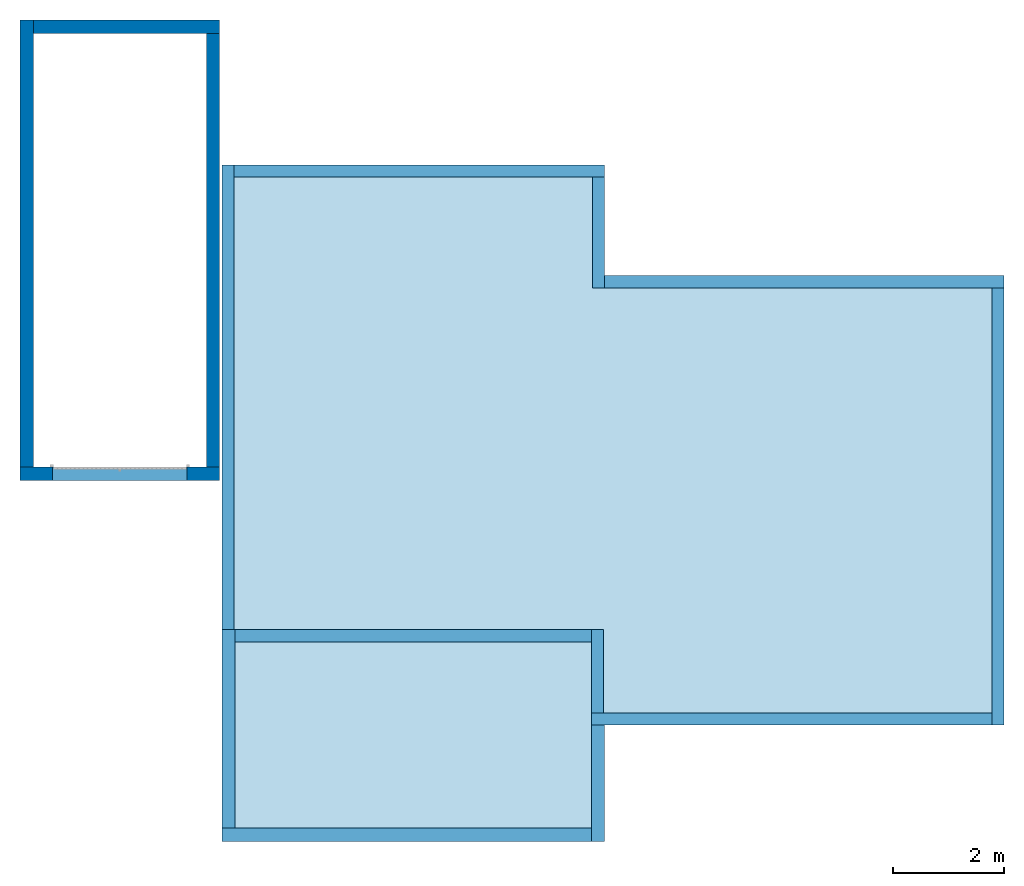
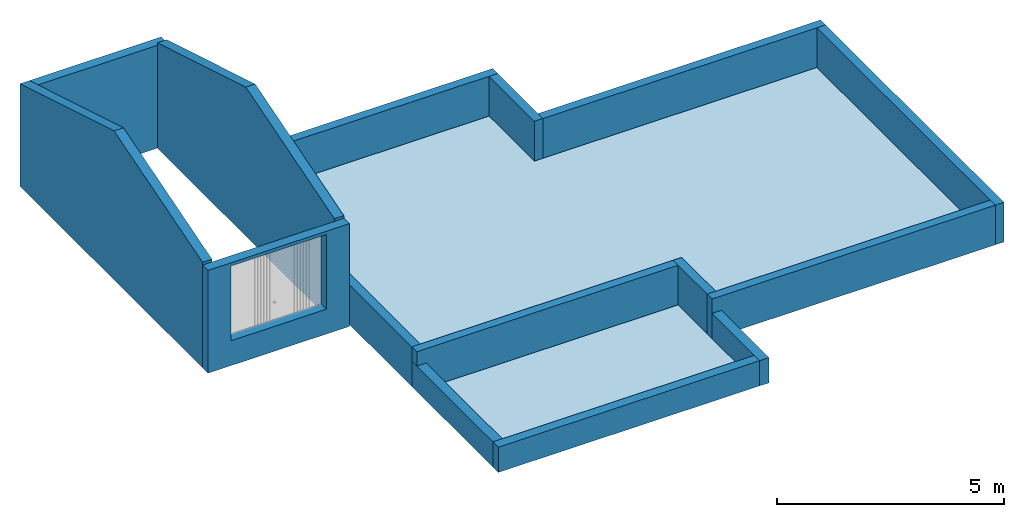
# One storey, incomplete: 15 walls, 1 slab, 1 opening.
"""IFC2X3 building model written with IfcOpenShell, lengths in metres."""

from ifc_helpers import new_model, entity, si_unit, converted_unit, derived_unit, direction, frame, frame_2d, origin, origin_2d_with_axis, place, context, subcontext, project, spatial, polyline, rectangle, outline, extrude, clip, bounded_halfspace, material, layer, layer_set, layer_usage, type_object, element, save


model = new_model("IFC2X3")

# Units and contexts
model_context = context("Model", 3, precision=1e-05, world=origin(), true_north=direction((6.12303176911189e-17, 1.0)))
body_context = subcontext(model_context, "Body", "Model", "MODEL_VIEW")
ifc_project = project(units=[si_unit("LENGTHUNIT", "METRE"), si_unit("AREAUNIT", "SQUARE_METRE"), si_unit("VOLUMEUNIT", "CUBIC_METRE"), converted_unit("PLANEANGLEUNIT", "DEGREE", entity("IfcRatioMeasure", 0.0174532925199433), si_unit("PLANEANGLEUNIT", "RADIAN"), dimensions=[0, 0, 0, 0, 0, 0, 0]), si_unit("MASSUNIT", "GRAM", prefix="KILO"), derived_unit("MASSDENSITYUNIT", [(si_unit("MASSUNIT", "GRAM", prefix="KILO"), 1), (si_unit("LENGTHUNIT", "METRE"), -3)]), derived_unit("MOMENTOFINERTIAUNIT", [(si_unit("LENGTHUNIT", "METRE"), 4)]), si_unit("TIMEUNIT", "SECOND"), si_unit("FREQUENCYUNIT", "HERTZ"), si_unit("THERMODYNAMICTEMPERATUREUNIT", "DEGREE_CELSIUS"), derived_unit("THERMALTRANSMITTANCEUNIT", [(si_unit("MASSUNIT", "GRAM", prefix="KILO"), 1), (si_unit("THERMODYNAMICTEMPERATUREUNIT", "KELVIN"), -1), (si_unit("TIMEUNIT", "SECOND"), -3)]), derived_unit("VOLUMETRICFLOWRATEUNIT", [(si_unit("LENGTHUNIT", "METRE"), 3), (si_unit("TIMEUNIT", "SECOND"), -1)]), si_unit("ELECTRICCURRENTUNIT", "AMPERE"), si_unit("ELECTRICVOLTAGEUNIT", "VOLT"), si_unit("POWERUNIT", "WATT"), si_unit("FORCEUNIT", "NEWTON", prefix="KILO"), si_unit("ILLUMINANCEUNIT", "LUX"), si_unit("LUMINOUSFLUXUNIT", "LUMEN"), si_unit("LUMINOUSINTENSITYUNIT", "CANDELA"), derived_unit("USERDEFINED", [(si_unit("MASSUNIT", "GRAM", prefix="KILO"), -1), (si_unit("LENGTHUNIT", "METRE"), -2), (si_unit("TIMEUNIT", "SECOND"), 3), (si_unit("LUMINOUSFLUXUNIT", "LUMEN"), 1)]), derived_unit("LINEARVELOCITYUNIT", [(si_unit("LENGTHUNIT", "METRE"), 1), (si_unit("TIMEUNIT", "SECOND"), -1)]), si_unit("PRESSUREUNIT", "PASCAL"), derived_unit("USERDEFINED", [(si_unit("LENGTHUNIT", "METRE"), -2), (si_unit("MASSUNIT", "GRAM", prefix="KILO"), 1), (si_unit("TIMEUNIT", "SECOND"), -2)]), derived_unit("LINEARFORCEUNIT", [(si_unit("MASSUNIT", "GRAM", prefix="KILO"), 1), (si_unit("LENGTHUNIT", "METRE"), 1), (si_unit("TIMEUNIT", "SECOND"), -2), (si_unit("LENGTHUNIT", "METRE"), -1)]), derived_unit("PLANARFORCEUNIT", [(si_unit("MASSUNIT", "GRAM", prefix="KILO"), 1), (si_unit("LENGTHUNIT", "METRE"), 1), (si_unit("TIMEUNIT", "SECOND"), -2), (si_unit("LENGTHUNIT", "METRE"), -2)])], contexts=[model_context])

# Site, building, storey
site_placement = place(None, origin())
site = spatial("IfcSite", under=ifc_project, at=site_placement, Name="Surface", CompositionType="ELEMENT")
building_placement = place(site_placement, origin())
building = spatial("IfcBuilding", under=site, at=building_placement, CompositionType="ELEMENT")
storey_placement = place(building_placement, frame((0.0, 0.0, -1.07)))
storey = spatial("IfcBuildingStorey", under=building, at=storey_placement, Name="TN", CompositionType="ELEMENT", Elevation=-1.07)

# Slab
ifc_material_1 = material(Name="Herbe")
ifc_layer_1 = layer(ifc_material_1, 0.01)
ifc_layer_set_1 = layer_set([ifc_layer_1], Name="Terre-plein:Terre-plein vs")
ifc_layer_usage_1 = layer_usage(ifc_layer_set_1, "AXIS3", "POSITIVE", 0.0)
slab_type = type_object("IfcSlabType", Name="Terre-plein:Terre-plein vs", PredefinedType="FLOOR", material=ifc_layer_set_1)
slab_placement = place(storey_placement, origin())
element("IfcSlab", 1, at=slab_placement, inside=storey, type_object=slab_type, material=ifc_layer_usage_1, Name="Terre-plein:Terre-plein vs", ObjectType="Terre-plein:Terre-plein vs", PredefinedType="FLOOR", context=body_context, shape_type="SweptSolid", body=[
    extrude(outline(polyline([(-1.14399999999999, -6.33399999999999), (5.31600000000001, -6.33399999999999), (5.31599999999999, 1.93599999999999), (5.29599999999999, 1.93599999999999), (5.29599999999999, 5.40599999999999), (-1.12400000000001, 5.40599999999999), (-1.124, 3.32599999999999), (-8.34400000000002, 3.32599999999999), (-8.34399999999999, -4.33399999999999), (-1.14399999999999, -4.33399999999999), (-1.14399999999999, -6.33399999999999)])), frame((-12.4722926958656, 2.43337977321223, -0.0100000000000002), z_axis=(0.0, 0.0, 1.0), x_axis=(-1.0, 0.0, 0.0)), (0.0, 0.0, 1.0), 0.01),
])

# Walls
ifc_material_2 = material(Name="Maçonnerie - Enduit")
ifc_layer_2 = layer(ifc_material_2, 0.02)
ifc_material_3 = material(Name="Blocs béton manufacturés")
ifc_layer_3 = layer(ifc_material_3, 0.2)
ifc_layer_4 = layer(ifc_material_2, 0.02)
ifc_layer_set_2 = layer_set([ifc_layer_2, ifc_layer_3, ifc_layer_4], Name="Mur de base:parpaing 20 + enduit 2 faces 2 cm")
ifc_layer_usage_2 = layer_usage(ifc_layer_set_2, "AXIS2", "NEGATIVE", 0.12)
wall_type_1 = type_object("IfcWallType", Name="Mur de base:parpaing 20 + enduit 2 faces 2 cm", PredefinedType="STANDARD", material=ifc_layer_set_2)
wall_1_placement = place(storey_placement, frame((-11.2282926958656, -1.11262022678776, 0.0), z_axis=(0.0, 0.0, 1.0), x_axis=(0.0, -1.0, 0.0)))
element("IfcWallStandardCase", 2, at=wall_1_placement, inside=storey, type_object=wall_type_1, material=ifc_layer_usage_2, Name="Mur de base:parpaing 20 + enduit 2 faces 2 cm", ObjectType="Mur de base:parpaing 20 + enduit 2 faces 2 cm", context=body_context, shape_type="SweptSolid", body=[
    extrude(rectangle(XDim=2.1, YDim=0.240000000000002, at=frame_2d((1.05, 0.0), x_axis=(-1.0, 0.0))), origin(), (0.0, 0.0, 1.0), 0.679999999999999),
])
ifc_layer_usage_3 = layer_usage(ifc_layer_set_2, "AXIS2", "NEGATIVE", 0.12)
wall_2_placement = place(storey_placement, frame((-11.3482926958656, -3.09262022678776, 0.0), z_axis=(0.0, 0.0, 1.0), x_axis=(-1.0, 0.0, 0.0)))
element("IfcWallStandardCase", 3, at=wall_2_placement, inside=storey, type_object=wall_type_1, material=ifc_layer_usage_3, Name="Mur de base:parpaing 20 + enduit 2 faces 2 cm", ObjectType="Mur de base:parpaing 20 + enduit 2 faces 2 cm", context=body_context, shape_type="SweptSolid", body=[
    extrude(rectangle(XDim=6.66, YDim=0.24, at=frame_2d((3.33, 0.0), x_axis=(-1.0, 0.0))), origin(), (0.0, 0.0, 1.0), 0.679999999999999),
])
ifc_layer_usage_4 = layer_usage(ifc_layer_set_2, "AXIS2", "NEGATIVE", 0.12)
wall_3_placement = place(storey_placement, frame((-17.8882926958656, -2.97262022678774, 0.0), z_axis=(0.0, 0.0, 1.0), x_axis=(0.0, 1.0, 0.0)))
element("IfcWallStandardCase", 4, at=wall_3_placement, inside=storey, type_object=wall_type_1, material=ifc_layer_usage_4, Name="Mur de base:parpaing 20 + enduit 2 faces 2 cm", ObjectType="Mur de base:parpaing 20 + enduit 2 faces 2 cm", context=body_context, shape_type="SweptSolid", body=[
    extrude(rectangle(XDim=3.58, YDim=0.240000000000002, at=frame_2d((1.79, -1.38777878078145e-17), x_axis=(-1.0, 0.0))), origin(), (0.0, 0.0, 1.0), 0.679999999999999),
])

# Wall, opening
ifc_layer_usage_5 = layer_usage(ifc_layer_set_2, "AXIS2", "NEGATIVE", 0.12)
wall_4_placement = place(storey_placement, frame((-18.0482926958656, 3.41737977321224, 0.0), z_axis=(0.0, 0.0, 1.0), x_axis=(-1.0, 0.0, 0.0)))
wall_4 = element("IfcWallStandardCase", 5, at=wall_4_placement, inside=storey, type_object=wall_type_1, material=ifc_layer_usage_5, Name="Mur de base:parpaing 20 + enduit 2 faces 2 cm", ObjectType="Mur de base:parpaing 20 + enduit 2 faces 2 cm", context=body_context, shape_type="SweptSolid", body=[
    extrude(rectangle(XDim=3.6, YDim=0.24, at=frame_2d((1.8, 0.0), x_axis=(-1.0, 0.0))), origin(), (0.0, 0.0, 1.0), 2.77),
])
opening_placement = place(wall_4_placement, frame((-18.0482926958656, 3.41737977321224, 1.07), z_axis=(0.0, 0.0, 1.0), x_axis=(-1.0, 0.0, 0.0)))
element("IfcOpeningElement", 6, at=opening_placement, cuts=wall_4, Name="Mur de base:parpaing 20 + enduit 2 faces 2 cm", ObjectType="Opening", context=body_context, shape_type="SweptSolid", body=[
    extrude(rectangle(XDim=2.01500000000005, YDim=2.42999999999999, at=origin_2d_with_axis()), frame((-19.8482926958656, 3.83737977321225, 0.607500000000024), z_axis=(0.0, -1.0, 0.0), x_axis=(0.0, 0.0, -1.0)), (0.0, 0.0, 1.0), 0.840000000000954),
])

# Walls
ifc_layer_usage_6 = layer_usage(ifc_layer_set_2, "AXIS2", "NEGATIVE", 0.12)
wall_5_placement = place(storey_placement, frame((-21.5282926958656, 3.53737977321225, 0.0), z_axis=(0.0, 0.0, 1.0), x_axis=(0.0, 1.0, 0.0)))
element("IfcWallStandardCase", 7, at=wall_5_placement, inside=storey, type_object=wall_type_1, material=ifc_layer_usage_6, Name="Mur de base:parpaing 20 + enduit 2 faces 2 cm", ObjectType="Mur de base:parpaing 20 + enduit 2 faces 2 cm", context=body_context, shape_type="Clipping", body=[
    clip(clip(extrude(rectangle(XDim=8.06, YDim=0.239999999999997, at=frame_2d((4.03, -1.80411241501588e-16), x_axis=(-1.0, 0.0))), origin(), (0.0, 0.0, 1.0), 4.015), bounded_halfspace(frame((3.90999999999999, -0.120000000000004, 4.015), z_axis=(0.287347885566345, 0.0, 0.957826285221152), x_axis=(0.0, 1.0, 0.0)), False, frame((3.90999999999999, -0.120000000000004, 4.015)), polyline([(0.0, 0.0), (4.15000000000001, 0.0), (4.15000000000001, 0.240000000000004), (0.0, 0.240000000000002), (0.0, 0.0)]))), bounded_halfspace(frame((0.0, -0.120000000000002, 2.842), z_axis=(-0.287347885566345, 0.0, 0.957826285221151), x_axis=(0.0, -1.0, 0.0)), False, frame((0.0, -0.120000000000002, 2.842)), polyline([(0.0, 0.0), (3.90999999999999, 0.0), (3.90999999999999, 0.240000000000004), (0.0, 0.240000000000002), (0.0, 0.0)]))),
])
ifc_layer_usage_7 = layer_usage(ifc_layer_set_2, "AXIS2", "NEGATIVE", 0.12)
wall_6_placement = place(storey_placement, frame((-21.4082926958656, 11.4773797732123, 0.0)))
element("IfcWallStandardCase", 8, at=wall_6_placement, inside=storey, type_object=wall_type_1, material=ifc_layer_usage_7, Name="Mur de base:parpaing 20 + enduit 2 faces 2 cm", ObjectType="Mur de base:parpaing 20 + enduit 2 faces 2 cm", context=body_context, shape_type="SweptSolid", body=[
    extrude(rectangle(XDim=3.36, YDim=0.240000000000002, at=frame_2d((1.68, 0.0), x_axis=(-1.0, 0.0))), origin(), (0.0, 0.0, 1.0), 2.77),
])
ifc_layer_usage_8 = layer_usage(ifc_layer_set_2, "AXIS2", "NEGATIVE", 0.12)
wall_7_placement = place(storey_placement, frame((-18.1682926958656, 11.3573797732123, 0.0), z_axis=(0.0, 0.0, 1.0), x_axis=(0.0, -1.0, 0.0)))
element("IfcWallStandardCase", 9, at=wall_7_placement, inside=storey, type_object=wall_type_1, material=ifc_layer_usage_8, Name="Mur de base:parpaing 20 + enduit 2 faces 2 cm", ObjectType="Mur de base:parpaing 20 + enduit 2 faces 2 cm", context=body_context, shape_type="Clipping", body=[
    clip(clip(extrude(rectangle(XDim=7.82000000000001, YDim=0.240000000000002, at=frame_2d((3.91000000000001, -1.94289029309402e-16), x_axis=(-1.0, 0.0))), origin(), (0.0, 0.0, 1.0), 4.015), bounded_halfspace(frame((0.0, -0.12, 2.842), z_axis=(-0.287347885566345, 0.0, 0.957826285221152), x_axis=(0.0, -1.0, 0.0)), False, frame((0.0, -0.12, 2.842)), polyline([(0.0, 0.0), (3.91000000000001, 0.0), (3.91000000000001, 0.239999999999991), (0.0, 0.24), (0.0, 0.0)]))), bounded_halfspace(frame((3.91000000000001, -0.12, 4.015), z_axis=(0.287347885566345, 0.0, 0.957826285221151), x_axis=(0.0, 1.0, 0.0)), False, frame((3.91000000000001, -0.12, 4.015)), polyline([(0.0, 0.0), (3.91, 0.0), (3.91, 0.239999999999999), (0.0, 0.24), (0.0, 0.0)]))),
])
ifc_layer_5 = layer(ifc_material_2, 0.02)
ifc_material_4 = material(Name="Maçonnerie - Béton")
ifc_layer_6 = layer(ifc_material_4, 0.2)
ifc_layer_set_3 = layer_set([ifc_layer_5, ifc_layer_6], Name="Mur de base:parpaing 20 + enduit 1 face 2 cm")
ifc_layer_usage_9 = layer_usage(ifc_layer_set_3, "AXIS2", "NEGATIVE", 0.11)
wall_type_2 = type_object("IfcWallType", Name="Mur de base:parpaing 20 + enduit 1 face 2 cm", PredefinedType="STANDARD", material=ifc_layer_set_3)
wall_8_placement = place(storey_placement, frame((-17.8982926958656, 0.607379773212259, 0.0), z_axis=(0.0, 0.0, 1.0), x_axis=(0.0, 1.0, 0.0)))
element("IfcWallStandardCase", 10, at=wall_8_placement, inside=storey, type_object=wall_type_2, material=ifc_layer_usage_9, Name="Mur de base:parpaing 20 + enduit 1 face 2 cm", ObjectType="Mur de base:parpaing 20 + enduit 1 face 2 cm", context=body_context, shape_type="SweptSolid", body=[
    extrude(rectangle(XDim=8.37999999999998, YDim=0.220000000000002, at=frame_2d((4.18999999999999, -1.73472347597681e-16), x_axis=(-1.0, 0.0))), origin(), (0.0, 0.0, 1.0), 1.06999999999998),
])
ifc_layer_usage_10 = layer_usage(ifc_layer_set_3, "AXIS2", "NEGATIVE", 0.11)
wall_9_placement = place(storey_placement, frame((-17.7882926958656, 8.87737977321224, 0.0)))
element("IfcWallStandardCase", 11, at=wall_9_placement, inside=storey, type_object=wall_type_2, material=ifc_layer_usage_10, Name="Mur de base:parpaing 20 + enduit 1 face 2 cm", ObjectType="Mur de base:parpaing 20 + enduit 1 face 2 cm", context=body_context, shape_type="SweptSolid", body=[
    extrude(rectangle(XDim=6.68, YDim=0.22, at=frame_2d((3.34, 1.73472347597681e-16), x_axis=(-1.0, 0.0))), origin(), (0.0, 0.0, 1.0), 1.06999999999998),
])
ifc_layer_usage_11 = layer_usage(ifc_layer_set_3, "AXIS2", "NEGATIVE", 0.11)
wall_10_placement = place(storey_placement, frame((-11.2182926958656, 8.76737977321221, 0.0), z_axis=(0.0, 0.0, 1.0), x_axis=(0.0, -1.0, 0.0)))
element("IfcWallStandardCase", 12, at=wall_10_placement, inside=storey, type_object=wall_type_2, material=ifc_layer_usage_11, Name="Mur de base:parpaing 20 + enduit 1 face 2 cm", ObjectType="Mur de base:parpaing 20 + enduit 1 face 2 cm", context=body_context, shape_type="SweptSolid", body=[
    extrude(rectangle(XDim=2.0, YDim=0.220000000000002, at=frame_2d((1.0, 0.0), x_axis=(-1.0, 0.0))), origin(), (0.0, 0.0, 1.0), 1.06999999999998),
])
ifc_layer_usage_12 = layer_usage(ifc_layer_set_3, "AXIS2", "NEGATIVE", 0.11)
wall_11_placement = place(storey_placement, frame((-11.1082926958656, 6.87737977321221, 0.0)))
element("IfcWallStandardCase", 13, at=wall_11_placement, inside=storey, type_object=wall_type_2, material=ifc_layer_usage_12, Name="Mur de base:parpaing 20 + enduit 1 face 2 cm", ObjectType="Mur de base:parpaing 20 + enduit 1 face 2 cm", context=body_context, shape_type="SweptSolid", body=[
    extrude(rectangle(XDim=7.2, YDim=0.22, at=frame_2d((3.6, 0.0), x_axis=(-1.0, 0.0))), origin(), (0.0, 0.0, 1.0), 1.06999999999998),
])
ifc_layer_usage_13 = layer_usage(ifc_layer_set_3, "AXIS2", "NEGATIVE", 0.11)
wall_12_placement = place(storey_placement, frame((-4.01829269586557, 6.76737977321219, 0.0), z_axis=(0.0, 0.0, 1.0), x_axis=(0.0, -1.0, 0.0)))
element("IfcWallStandardCase", 14, at=wall_12_placement, inside=storey, type_object=wall_type_2, material=ifc_layer_usage_13, Name="Mur de base:parpaing 20 + enduit 1 face 2 cm", ObjectType="Mur de base:parpaing 20 + enduit 1 face 2 cm", context=body_context, shape_type="SweptSolid", body=[
    extrude(rectangle(XDim=7.87999999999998, YDim=0.22, at=frame_2d((3.93999999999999, 9.0205620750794e-17), x_axis=(-1.0, 0.0))), origin(), (0.0, 0.0, 1.0), 1.06999999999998),
])
ifc_layer_usage_14 = layer_usage(ifc_layer_set_3, "AXIS2", "NEGATIVE", 0.11)
wall_13_placement = place(storey_placement, frame((-4.12829269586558, -1.00262022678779, 0.0), z_axis=(0.0, 0.0, 1.0), x_axis=(-1.0, 0.0, 0.0)))
element("IfcWallStandardCase", 15, at=wall_13_placement, inside=storey, type_object=wall_type_2, material=ifc_layer_usage_14, Name="Mur de base:parpaing 20 + enduit 1 face 2 cm", ObjectType="Mur de base:parpaing 20 + enduit 1 face 2 cm", context=body_context, shape_type="SweptSolid", body=[
    extrude(rectangle(XDim=7.22000000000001, YDim=0.22, at=frame_2d((3.61, -2.77555756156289e-17), x_axis=(-1.0, 0.0))), origin(), (0.0, 0.0, 1.0), 1.06999999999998),
])
ifc_layer_usage_15 = layer_usage(ifc_layer_set_3, "AXIS2", "NEGATIVE", 0.11)
wall_14_placement = place(storey_placement, frame((-11.2382926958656, -0.892620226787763, 0.0), z_axis=(0.0, 0.0, 1.0), x_axis=(0.0, 1.0, 0.0)))
element("IfcWallStandardCase", 16, at=wall_14_placement, inside=storey, type_object=wall_type_2, material=ifc_layer_usage_15, Name="Mur de base:parpaing 20 + enduit 1 face 2 cm", ObjectType="Mur de base:parpaing 20 + enduit 1 face 2 cm", context=body_context, shape_type="SweptSolid", body=[
    extrude(rectangle(XDim=1.5, YDim=0.220000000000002, at=frame_2d((0.75, 0.0), x_axis=(-1.0, 0.0))), origin(), (0.0, 0.0, 1.0), 1.06999999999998),
])
ifc_layer_usage_16 = layer_usage(ifc_layer_set_3, "AXIS2", "NEGATIVE", 0.11)
wall_15_placement = place(storey_placement, frame((-11.3482926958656, 0.497379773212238, 0.0), z_axis=(0.0, 0.0, 1.0), x_axis=(-1.0, 0.0, 0.0)))
element("IfcWallStandardCase", 17, at=wall_15_placement, inside=storey, type_object=wall_type_2, material=ifc_layer_usage_16, Name="Mur de base:parpaing 20 + enduit 1 face 2 cm", ObjectType="Mur de base:parpaing 20 + enduit 1 face 2 cm", context=body_context, shape_type="SweptSolid", body=[
    extrude(rectangle(XDim=6.66, YDim=0.22, at=frame_2d((3.33, 0.0), x_axis=(-1.0, 0.0))), origin(), (0.0, 0.0, 1.0), 1.06999999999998),
])

save(model, "model.ifc")
